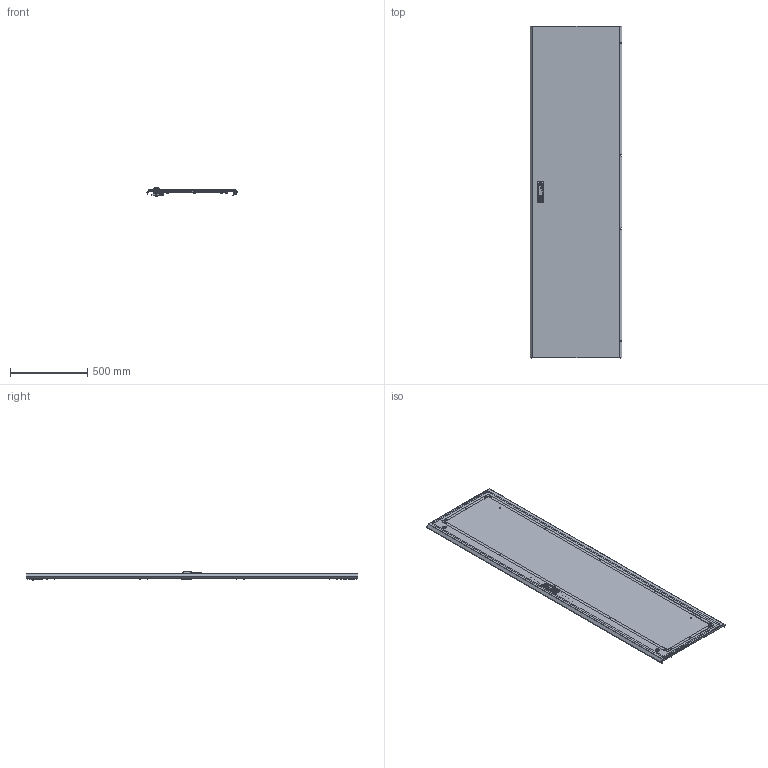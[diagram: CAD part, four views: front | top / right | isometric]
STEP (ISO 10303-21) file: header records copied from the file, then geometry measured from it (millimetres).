
FILE_DESCRIPTION (( 'STEP AP203' ), '1' );
FILE_NAME ('MA1.200.060622.30.00 AleSta-D22M600 Äâåðü ñïëîøíàÿ äëÿ øêàôîâ ALESTA ÂõØ 2200õ600.STEP', '2025-02-19T14:12:05', ( '' ), ( '' ), 'SwSTEP 2.0', 'SolidWorks 2021', '' );
FILE_SCHEMA (( 'CONFIG_CONTROL_DESIGN' ));
Length unit declared in the file: millimetre
Products named in the file (23): MA1.200.060620.31.00 Äâåðü ñïëîøíàÿ äëÿ øêàôîâ ALESTA ÂõØ 2000õ600_2200å600; MA1.200.060620.31.06 赶鎀鍧_100 洵; MA1.200.060622.30.00 AleSta-D22M600 Äâåðü ñïëîøíàÿ äëÿ øêàôîâ ALESTA ÂõØ 2200õ600; Âèíò_ðåçüáîâûäàâëèâàþùèé_Ì5õ12_DIN 7500E_Œ5å12; MA1.200.060620.31.02 Ðåéêà íà äâåðü âåðòèêàëüíàÿ Â = 2000_‚ = 2200; Øïèëüêà Ì6õ12_˜¯¨«ìª  Œ6å16; Ãàéêà ñàìîêîíòðÿùàÿñÿ ñ íåéëîíîâîé âñòàâêîé Ì6 DIN 985, êëàññ ïðî÷íîñòè 8, îöèíêîâàííàÿ ñòàëü_Œ6; MA1.200.060620.31.03 Ðåéêà íà äâåðü ãîðèçîíòàëüíàÿ Ø = 600_˜ = 600; Ãàéêà ñàìîêîíòðÿùàÿñÿ ñ íåéëîíîâîé âñòàâêîé Ì6 DIN 985, êëàññ ïðî÷íîñòè 8, îöèíêîâàííàÿ ñòàëü_Œ5; 諘蜱齁罻 022 瀁錒瀔隮; MA1.200.060620.31.05 Óãëîâîé óïîð äâåðíîé òÿãè; MS463-2-3(1); MA1.200.060620.31.04 需沐朦_惃％; êðåïëåíèå_êðóãëîé_òÿãè_RG1020-1.stp; Íàâåñêà íà êîðïóñ ïîä êëåïêó; Óïëîòíèòåëü ïàíåëè íèæíåé_‚=2200; Áîëò øåñòèãðàííûé Ì5õ12 DIN 933, êëàññ ïðî÷íîñòè 8.8, îöèíêîâàííàÿ ñòàëü; äåðæàòåëü_êðóãëîé_òÿãèRG002-RG1010-2-i-RG1010-3-.stp; Îñü ïåòëè 4õ52_‚¨­â A.M4x0,5x40 ƒŽ‘’ 11644-75; òÿãà_lg001-2.STEP_‚=2200; Øïèëüêà Ì6õ12_˜¯¨«ìª  Œ6å20; MA1.200.060620.31.01 Ïîëîòíî äâåðè ñïëîøíîé 2000õ600_2200å600; Âèíò ñàìîíàðåçàþùèé ñ ïîòàéíîé ãîëîâêîé Ì5x16 DIN 7500 M TORX, êëàññ ïðî÷íîñòè 8.8, îöèíêîâàííàÿ ñòàëü_Œ5å16
Assembly tree (84 placements, depth 3):
  MA1.200.060622.30.00 AleSta-D22M600 Äâåðü ñïëîøíàÿ äëÿ øêàôîâ ALESTA ÂõØ 2200õ600
    MA1.200.060620.31.00 Äâåðü ñïëîøíàÿ äëÿ øêàôîâ ALESTA ÂõØ 2000õ600_2200å600
      MA1.200.060620.31.01 Ïîëîòíî äâåðè ñïëîøíîé 2000õ600_2200å600
      Óïëîòíèòåëü ïàíåëè íèæíåé_‚=2200
      Øïèëüêà Ì6õ12_˜¯¨«ìª  Œ6å20  x16
      Øïèëüêà Ì6õ12_˜¯¨«ìª  Œ6å16  x4
    MA1.200.060620.31.03 Ðåéêà íà äâåðü ãîðèçîíòàëüíàÿ Ø = 600_˜ = 600  x2
    諘蜱齁罻 022 瀁錒瀔隮  x4
    MA1.200.060620.31.02 Ðåéêà íà äâåðü âåðòèêàëüíàÿ Â = 2000_‚ = 2200  x2
    äåðæàòåëü_êðóãëîé_òÿãèRG002-RG1010-2-i-RG1010-3-.stp  x2
    òÿãà_lg001-2.STEP_‚=2200  x2
    êðåïëåíèå_êðóãëîé_òÿãè_RG1020-1.stp  x2
    MS463-2-3(1)
    Ãàéêà ñàìîêîíòðÿùàÿñÿ ñ íåéëîíîâîé âñòàâêîé Ì6 DIN 985, êëàññ ïðî÷íîñòè 8, îöèíêîâàííàÿ ñòàëü_Œ6  x16
    Ãàéêà ñàìîêîíòðÿùàÿñÿ ñ íåéëîíîâîé âñòàâêîé Ì6 DIN 985, êëàññ ïðî÷íîñòè 8, îöèíêîâàííàÿ ñòàëü_Œ5  x2
    Áîëò øåñòèãðàííûé Ì5õ12 DIN 933, êëàññ ïðî÷íîñòè 8.8, îöèíêîâàííàÿ ñòàëü  x2
    MA1.200.060620.31.05 Óãëîâîé óïîð äâåðíîé òÿãè  x2
    Âèíò_ðåçüáîâûäàâëèâàþùèé_Ì5õ12_DIN 7500E_Œ5å12  x6
    Íàâåñêà íà êîðïóñ ïîä êëåïêó  x4
    Îñü ïåòëè 4õ52_‚¨­â A.M4x0,5x40 ƒŽ‘’ 11644-75  x4
    Âèíò ñàìîíàðåçàþùèé ñ ïîòàéíîé ãîëîâêîé Ì5x16 DIN 7500 M TORX, êëàññ ïðî÷íîñòè 8.8, îöèíêîâàííàÿ ñòàëü_Œ5å16  x8
    MA1.200.060620.31.04 需沐朦_惃％
    MA1.200.060620.31.06 赶鎀鍧_100 洵
Bounding box: 591.81 x 2145 x 54.72 mm (x, y, z)
Volume: 2936426 mm3; surface area: 3582920.4 mm2
Topology: 118 solids, 132 shells, 6133 faces, 15240 edges, 9292 vertices
Faces by surface type: cylinder 2471, plane 2445, bspline 661, cone 261, torus 197, sphere 98
Entity records: 140178 total; most frequent: CARTESIAN_POINT 58924, ORIENTED_EDGE 16410, DIRECTION 15449, EDGE_CURVE 8222, AXIS2_PLACEMENT_3D 5531, VERTEX_POINT 5140, LINE 4387, VECTOR 4387
